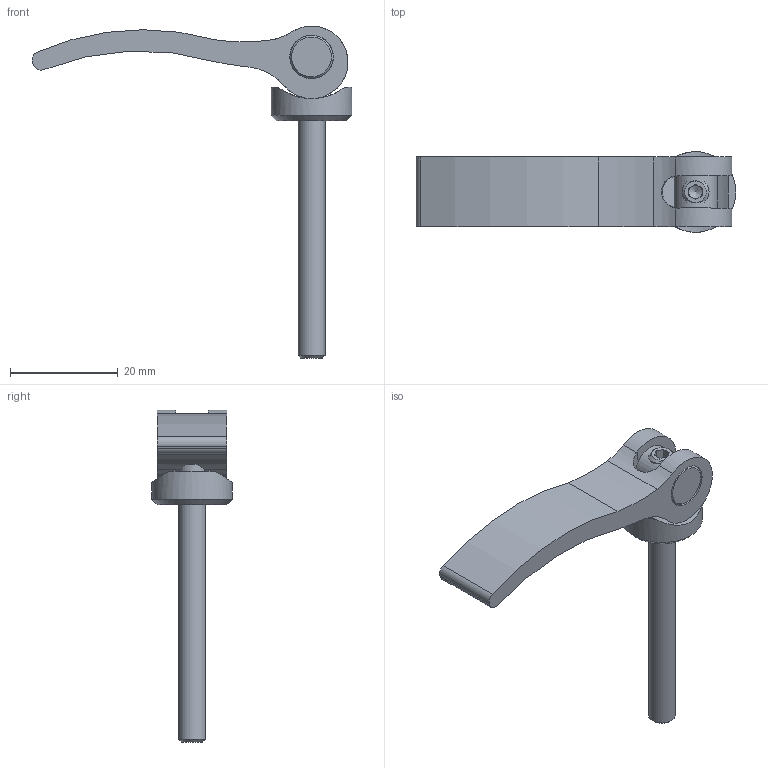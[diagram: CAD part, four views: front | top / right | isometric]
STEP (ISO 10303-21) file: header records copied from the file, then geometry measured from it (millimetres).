
FILE_DESCRIPTION(('STEP AP203'), '1');
FILE_NAME('À00360.11590520 _ Ýêñöåíòðèê 59 ìì', '', ('UNSPECIFIED'), ('UNSPECIFIED'), 'C3D Converter', 'C3D Toolkit', '');
FILE_SCHEMA(('CONFIG_CONTROL_DESIGN'));
Length unit declared in the file: millimetre
Products named in the file (5): А00360.59.03; А00360.59.02; А00360.59.01
Assembly tree (4 placements, depth 2):
  (unnamed)
    А00360.59.03
    А00360.59.02
    А00360.59.01
    (unnamed)
Bounding box: 59.48 x 14.99 x 61.75 mm (x, y, z)
Volume: 5580.5 mm3; surface area: 4555.9 mm2
Topology: 4 solids, 4 shells, 49 faces, 123 edges, 80 vertices
Faces by surface type: plane 24, cylinder 19, cone 6
Full cylindrical faces by diameter (mm): 4.134 x1, 5 x1, 5.5 x1, 8 x1, 8.1 x2, 15 x1
Entity records: 2556 total; most frequent: CARTESIAN_POINT 1041, DIRECTION 254, ORIENTED_EDGE 218, EDGE_CURVE 109, AXIS2_PLACEMENT_3D 105, VERTEX_POINT 79, EDGE_LOOP 68, FACE_BOUND 57
